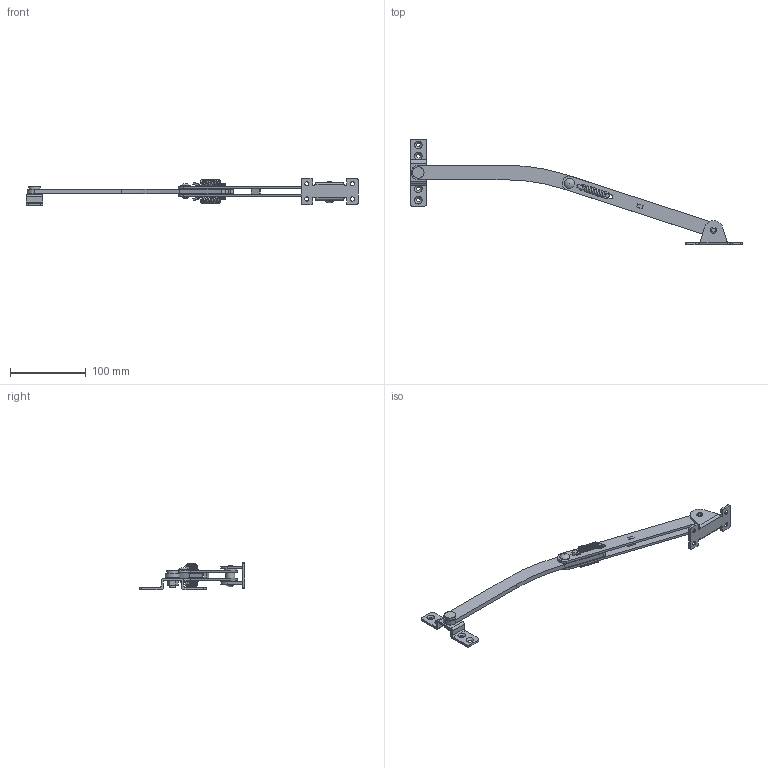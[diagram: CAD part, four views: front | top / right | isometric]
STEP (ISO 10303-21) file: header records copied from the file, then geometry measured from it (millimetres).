
FILE_DESCRIPTION(/* description */ (''),/* implementation_level */ '2;1');
FILE_NAME(/* name */ '\\Nas\db20\SY-7-1\DR_SY7-1.stp',/* time_stamp */ '2018-03-09T17:37:42+09:00',/* author */ ('user'),/* organization */ (''),/* preprocessor_version */ 'ST-DEVELOPER v15.6',/* originating_system */ 'Autodesk Inventor 2015',/* authorisation */ '');
FILE_SCHEMA (('AUTOMOTIVE_DESIGN { 1 0 10303 214 3 1 1 }'));
Length unit declared in the file: millimetre
Products named in the file (8): DR_NUT-M8; DR_SY7-1-B1; DR_SY7-1-B2; DR_SY7-1-BR1; DR_SY7-1-BR2; DR_SY7-1-SP; DR_SY7-1-SP_R; DR_SY7-1
Bounding box: 438.2 x 139.82 x 36.5 mm (x, y, z)
Volume: 77505 mm3; surface area: 51931 mm2
Topology: 8 solids, 8 shells, 277 faces, 697 edges, 450 vertices
Faces by surface type: plane 134, cylinder 111, torus 16, cone 12, sphere 2, bspline 2
Full cylindrical faces by diameter (mm): 3 x2, 4 x3, 5 x7, 5.5 x4, 6 x2, 8 x6, 12 x1, 12.5 x1, 13 x1, 15 x1, 17.5 x5
Entity records: 17135 total; most frequent: CARTESIAN_POINT 10275, DIRECTION 1457, ORIENTED_EDGE 1266, EDGE_CURVE 633, AXIS2_PLACEMENT_3D 550, VERTEX_POINT 436, EDGE_LOOP 383, LINE 357
